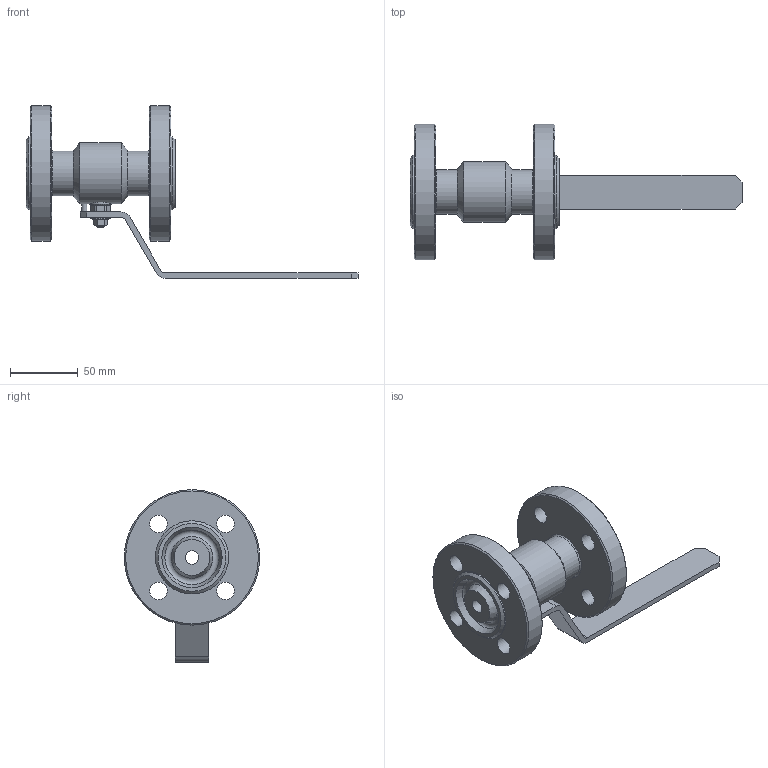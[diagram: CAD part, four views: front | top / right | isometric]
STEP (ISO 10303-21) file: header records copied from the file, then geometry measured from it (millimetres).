
FILE_DESCRIPTION(('STEP AP203'), '1');
FILE_NAME('ZARDP 010.100.27.P.stp', '2013-12-05T08:33:26', ('1'), ('1'), 'ASCON STEP Converter 1.3', 'Kompas 3D', '');
FILE_SCHEMA(('CONFIG_CONTROL_DESIGN','SUPPORT_RESOURCE_SCHEMA'));
Length unit declared in the file: millimetre
Products named in the file (1): 37
Bounding box: 245 x 100 x 127.5 mm (x, y, z)
Volume: 333393.4 mm3; surface area: 74323.6 mm2
Topology: 1 solids, 3 shells, 169 faces, 388 edges, 238 vertices
Faces by surface type: plane 88, cylinder 44, cone 32, torus 4, bspline 1
Full cylindrical faces by diameter (mm): 4 x2, 6 x2, 8.673 x1, 9 x1, 10 x3, 10.1 x1, 13 x8, 14.2 x1, 15.8 x1, 16 x3, 25.4 x1, 33 x2, 45 x1, 54 x2, 100 x2
Entity records: 5898 total; most frequent: CARTESIAN_POINT 1862, DIRECTION 865, ORIENTED_EDGE 774, EDGE_CURVE 387, AXIS2_PLACEMENT_3D 334, VERTEX_POINT 238, EDGE_LOOP 213, LINE 197
